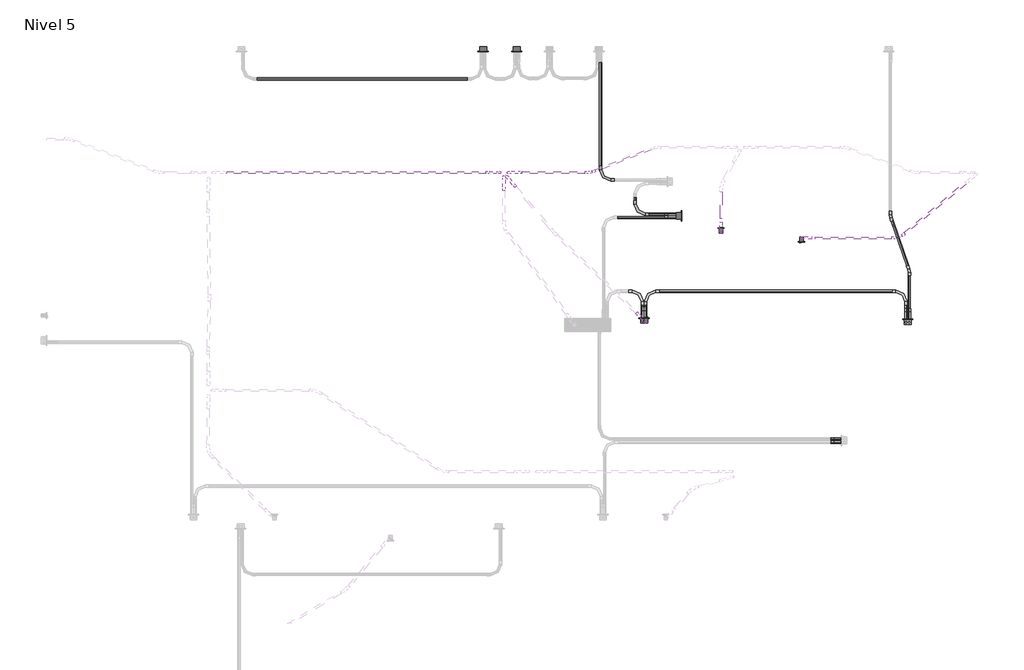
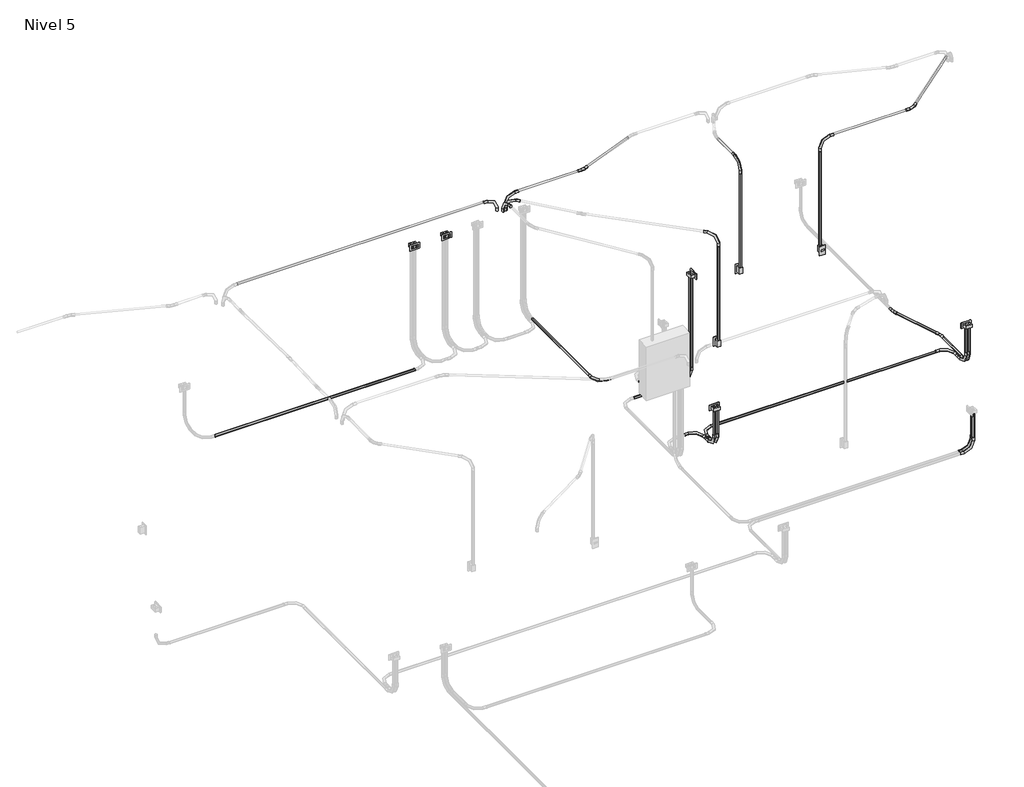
# One storey, part 8 of 9: 28 cable carrier segments, 24 cable carrier fittings, 5 proxies, 3 switching devices.
"""IFC4 building model written with IfcOpenShell, lengths in millimetres."""

from ifc_helpers import new_model, si_unit, point, frame, frame_2d, origin, place, context, project, spatial, circle_curve, trimmed, segment, composite_curve, outline, extrude, transform, mapped, element, save
from components import gfci_180f1b41, m_codo_de_tubo_extremo_liso_pvc_9da73e12, m_codo_de_tubo_extremo_liso_pvc_20e47560, m_codo_de_tubo_extremo_liso_pvc_102f0f41, m_codo_de_tubo_extremo_liso_pvc_da9ca040, m_codo_de_tubo_extremo_liso_pvc_18a5b87b, switching_device_22fed34b

model = new_model("IFC4")

# Units and contexts
model_context = context("Model", 3, world=origin())
ifc_project = project(units=[si_unit("LENGTHUNIT", "METRE", prefix="MILLI")], contexts=[model_context])

# Site, building, storey
site = spatial("IfcSite", under=ifc_project)
building = spatial("IfcBuilding", under=site)
storey = spatial("IfcBuildingStorey", under=building, Name="Nivel 5", Elevation=10750.0)

# Proxies
placement = place(None, origin())
gfci_shape = gfci_180f1b41(model_context)
element("IfcBuildingElementProxy", 1, Name="Tomacorriente doble 220V : GFCI", ObjectType="Tomacorriente doble 220V : GFCI", at=placement, inside=storey, context=model_context, shape_type="MappedRepresentation", body=[
    mapped(gfci_shape, transform((2332.9602919, 17515.0, 11950.0), x_axis=(0.0, 0.0, 1.0), y_axis=(-1.0, 0.0, 0.0), z_axis=(0.0, -1.0, 0.0))),
])
element("IfcBuildingElementProxy", 2, Name="Tomacorriente doble 220V : GFCI", ObjectType="Tomacorriente doble 220V : GFCI", at=placement, inside=storey, context=model_context, shape_type="MappedRepresentation", body=[
    mapped(gfci_shape, transform((2706.5088262, 17515.0, 11950.0), x_axis=(0.0, 0.0, 1.0), y_axis=(-1.0, 0.0, 0.0), z_axis=(0.0, -1.0, 0.0))),
])
element("IfcBuildingElementProxy", 3, Name="Tomacorriente doble 220V : GFCI", ObjectType="Tomacorriente doble 220V : GFCI", at=placement, inside=storey, context=model_context, shape_type="MappedRepresentation", body=[
    mapped(gfci_shape, transform((4529.9531324, 15688.8147874, 11950.0), x_axis=(0.0, 0.0, 1.0), y_axis=(0.0, -1.0, 0.0), z_axis=(1.0, 0.0, 0.0))),
])
element("IfcBuildingElementProxy", 4, Name="Tomacorriente doble 220V : GFCI", ObjectType="Tomacorriente doble 220V : GFCI", at=placement, inside=storey, context=model_context, shape_type="MappedRepresentation", body=[
    mapped(gfci_shape, transform((7044.8620137, 14535.0, 11150.0), x_axis=(0.0, 0.0, 1.0), y_axis=(1.0, 0.0, 0.0), z_axis=(0.0, 1.0, 0.0))),
])
element("IfcBuildingElementProxy", 5, Name="Tomacorriente doble 220V : GFCI", ObjectType="Tomacorriente doble 220V : GFCI", at=placement, inside=storey, context=model_context, shape_type="MappedRepresentation", body=[
    mapped(gfci_shape, transform((4117.8570499, 14550.3626818, 11150.0), x_axis=(0.0, 0.0, 1.0), y_axis=(1.0, 0.0, 0.0), z_axis=(0.0, 1.0, 0.0))),
])

# Cable carrier fittings
m_codo_de_tubo_extremo_liso_pvc_shape = m_codo_de_tubo_extremo_liso_pvc_9da73e12(model_context)
element("IfcCableCarrierFitting", 6, ObjectType="M_Codo de tubo - Extremo liso - PVC : CODO POTENCIA", at=placement, inside=storey, context=model_context, shape_type="MappedRepresentation", body=[
    mapped(m_codo_de_tubo_extremo_liso_pvc_shape, transform((4099.8252301, 14520.72557, 10680.0), x_axis=(0.0, 0.0, -1.0), y_axis=(0.0, 1.0, 0.0), z_axis=(1.0, 0.0, 0.0))),
])
element("IfcCableCarrierFitting", 7, ObjectType="M_Codo de tubo - Extremo liso - PVC : CODO POTENCIA", at=placement, inside=storey, context=model_context, shape_type="MappedRepresentation", body=[
    mapped(m_codo_de_tubo_extremo_liso_pvc_shape, transform((7026.8301939, 14505.3628882, 10680.0), x_axis=(0.0, 0.0, -1.0), y_axis=(0.0, 1.0, 0.0), z_axis=(1.0, 0.0, 0.0))),
])
element("IfcCableCarrierFitting", 8, ObjectType="M_Codo de tubo - Extremo liso - PVC : CODO POTENCIA", at=placement, inside=storey, context=model_context, shape_type="MappedRepresentation", body=[
    mapped(m_codo_de_tubo_extremo_liso_pvc_shape, transform((7062.8938335, 14505.3628882, 10680.0), x_axis=(0.0, 0.0, -1.0), y_axis=(0.0, 1.0, 0.0), z_axis=(1.0, 0.0, 0.0))),
])
element("IfcCableCarrierFitting", 9, ObjectType="M_Codo de tubo - Extremo liso - PVC : CODO POTENCIA", at=placement, inside=storey, context=model_context, shape_type="MappedRepresentation", body=[
    mapped(m_codo_de_tubo_extremo_liso_pvc_shape, transform((7026.8301939, 14850.3628882, 10680.0), x_axis=(0.0, 1.0, 0.0), y_axis=(-1.0, 0.0, 0.0), z_axis=(0.0, 0.0, 1.0))),
])
element("IfcCableCarrierFitting", 10, ObjectType="M_Codo de tubo - Extremo liso - PVC : CODO POTENCIA", at=placement, inside=storey, context=model_context, shape_type="MappedRepresentation", body=[
    mapped(m_codo_de_tubo_extremo_liso_pvc_shape, transform((4135.8888697, 14850.3628882, 10680.0), x_axis=(-1.0, 0.0, 0.0), y_axis=(0.0, -1.0, 0.0), z_axis=(0.0, 0.0, 1.0))),
])
element("IfcCableCarrierFitting", 11, ObjectType="M_Codo de tubo - Extremo liso - PVC : CODO POTENCIA", at=placement, inside=storey, context=model_context, shape_type="MappedRepresentation", body=[
    mapped(m_codo_de_tubo_extremo_liso_pvc_shape, transform((4135.8888697, 14520.72557, 10680.0), x_axis=(0.0, 0.0, -1.0), y_axis=(0.0, 1.0, 0.0), z_axis=(1.0, 0.0, 0.0))),
])
element("IfcCableCarrierFitting", 12, ObjectType="M_Codo de tubo - Extremo liso - PVC : CODO POTENCIA", at=placement, inside=storey, context=model_context, shape_type="MappedRepresentation", body=[
    mapped(m_codo_de_tubo_extremo_liso_pvc_shape, transform((4500.3160206, 15670.7829676, 10680.0), x_axis=(0.0, 0.0, -1.0), y_axis=(-1.0, 0.0, 0.0), z_axis=(0.0, 1.0, 0.0))),
])
element("IfcCableCarrierFitting", 13, ObjectType="M_Codo de tubo - Extremo liso - PVC : CODO POTENCIA", at=placement, inside=storey, context=model_context, shape_type="MappedRepresentation", body=[
    mapped(m_codo_de_tubo_extremo_liso_pvc_shape, transform((4500.3160206, 15706.8466073, 10680.0), x_axis=(0.0, 0.0, -1.0), y_axis=(-1.0, 0.0, 0.0), z_axis=(0.0, 1.0, 0.0))),
])
element("IfcCableCarrierFitting", 14, ObjectType="M_Codo de tubo - Extremo liso - PVC : CODO POTENCIA", at=placement, inside=storey, context=model_context, shape_type="MappedRepresentation", body=[
    mapped(m_codo_de_tubo_extremo_liso_pvc_shape, transform((4099.8252301, 14850.3628882, 10680.0), x_axis=(0.0, 1.0, 0.0), y_axis=(-1.0, 0.0, 0.0), z_axis=(0.0, 0.0, 1.0))),
])
element("IfcCableCarrierFitting", 15, ObjectType="M_Codo de tubo - Extremo liso - PVC : CODO POTENCIA", at=placement, inside=storey, context=model_context, shape_type="MappedRepresentation", body=[
    mapped(m_codo_de_tubo_extremo_liso_pvc_shape, transform((4020.3160206, 15706.8466073, 10680.0), x_axis=(0.0, -1.0, 0.0), y_axis=(1.0, 0.0, 0.0), z_axis=(0.0, 0.0, 1.0))),
])
element("IfcCableCarrierFitting", 16, ObjectType="M_Codo de tubo - Extremo liso - PVC : CODO POTENCIA", at=placement, inside=storey, context=model_context, shape_type="MappedRepresentation", body=[
    mapped(m_codo_de_tubo_extremo_liso_pvc_shape, transform((3635.6625794, 16086.3537982, 10680.0), x_axis=(0.0, -1.0, 0.0), y_axis=(1.0, 0.0, 0.0), z_axis=(0.0, 0.0, 1.0))),
])
element("IfcCableCarrierFitting", 17, ObjectType="M_Codo de tubo - Extremo liso - PVC : CODO POTENCIA", at=placement, inside=storey, context=model_context, shape_type="MappedRepresentation", body=[
    mapped(m_codo_de_tubo_extremo_liso_pvc_shape, transform((6344.6371118, 13174.3276394, 10680.0), x_axis=(0.0, 0.0, -1.0), y_axis=(-1.0, 0.0, 0.0), z_axis=(0.0, 1.0, 0.0))),
])
element("IfcCableCarrierFitting", 18, ObjectType="M_Codo de tubo - Extremo liso - PVC : CODO POTENCIA", at=placement, inside=storey, context=model_context, shape_type="MappedRepresentation", body=[
    mapped(m_codo_de_tubo_extremo_liso_pvc_shape, transform((6344.6371118, 13210.391279, 10680.0), x_axis=(0.0, 0.0, -1.0), y_axis=(-1.0, 0.0, 0.0), z_axis=(0.0, 1.0, 0.0))),
])
m_codo_de_tubo_extremo_liso_pvc_2_shape = m_codo_de_tubo_extremo_liso_pvc_20e47560(model_context)
element("IfcCableCarrierFitting", 19, ObjectType="M_Codo de tubo - Extremo liso - PVC : CODO POTENCIA", at=placement, inside=storey, context=model_context, shape_type="MappedRepresentation", body=[
    mapped(m_codo_de_tubo_extremo_liso_pvc_2_shape, transform((6853.5056127, 15684.6371118, 10680.0), x_axis=(0.0, -1.0, 0.0), y_axis=(1.0, 0.0, 0.0), z_axis=(0.0, 0.0, 1.0))),
])
element("IfcCableCarrierFitting", 20, ObjectType="M_Codo de tubo - Extremo liso - PVC : CODO POTENCIA", at=placement, inside=storey, context=model_context, shape_type="MappedRepresentation", body=[
    mapped(m_codo_de_tubo_extremo_liso_pvc_2_shape, transform((7062.8938335, 15080.3628882, 10680.0), x_axis=(0.0, 1.0, 0.0), y_axis=(-1.0, 0.0, 0.0), z_axis=(0.0, 0.0, 1.0))),
])
element("IfcCableCarrierFitting", 21, ObjectType="M_Codo de tubo - Extremo liso - PVC : CODO ILUMINACION", at=placement, inside=storey, context=model_context, shape_type="MappedRepresentation", body=[
    mapped(m_codo_de_tubo_extremo_liso_pvc_shape, transform((2609.5479095, 16168.6370953, 13300.0), x_axis=(-1.0, 0.0, 0.0), y_axis=(0.0, 0.0, -1.0), z_axis=(0.0, -1.0, 0.0))),
])
element("IfcCableCarrierFitting", 22, ObjectType="M_Codo de tubo - Extremo liso - PVC : CODO ILUMINACION", at=placement, inside=storey, context=model_context, shape_type="MappedRepresentation", body=[
    mapped(m_codo_de_tubo_extremo_liso_pvc_shape, transform((2562.9717001, 16122.0608858, 13300.0), x_axis=(0.0, 1.0, 0.0), y_axis=(0.0, 0.0, -1.0), z_axis=(-1.0, 0.0, 0.0))),
])
element("IfcCableCarrierFitting", 23, ObjectType="M_Codo de tubo - Extremo liso - PVC : CODO ILUMINACION", at=placement, inside=storey, context=model_context, shape_type="MappedRepresentation", body=[
    mapped(m_codo_de_tubo_extremo_liso_pvc_shape, transform((2595.274299, 16126.1832603, 13300.0), x_axis=(-0.6427876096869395, 0.7660444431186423, 0.0), y_axis=(0.0, 0.0, -1.0), z_axis=(-0.7660444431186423, -0.6427876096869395, 0.0))),
])
element("IfcCableCarrierFitting", 24, ObjectType="M_Codo de tubo - Extremo liso - PVC : CODO ILUMINACION", at=placement, inside=storey, context=model_context, shape_type="MappedRepresentation", body=[
    mapped(m_codo_de_tubo_extremo_liso_pvc_shape, transform((4142.0280639, 14507.2238061, 13300.0), x_axis=(0.0, 0.0, 1.0), y_axis=(-0.7168149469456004, 0.697263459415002, 0.0), z_axis=(-0.697263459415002, -0.7168149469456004, 0.0))),
])
element("IfcCableCarrierFitting", 25, ObjectType="M_Codo de tubo - Extremo liso - PVC : CODO ILUMINACION", at=placement, inside=storey, context=model_context, shape_type="MappedRepresentation", body=[
    mapped(m_codo_de_tubo_extremo_liso_pvc_shape, transform((4973.7041598, 15506.8611243, 13300.0), x_axis=(0.0, 0.0, 1.0), y_axis=(0.0, 1.0, 0.0), z_axis=(-1.0, 0.0, 0.0))),
])
element("IfcCableCarrierFitting", 26, ObjectType="M_Codo de tubo - Extremo liso - PVC : CODO ILUMINACION", at=placement, inside=storey, context=model_context, shape_type="MappedRepresentation", body=[
    mapped(m_codo_de_tubo_extremo_liso_pvc_shape, transform((5866.1136082, 15443.1388757, 13300.0), x_axis=(0.0, 0.0, 1.0), y_axis=(1.0, 0.0, 0.0), z_axis=(0.0, 1.0, 0.0))),
])
m_codo_de_tubo_extremo_liso_pvc_3_shape = m_codo_de_tubo_extremo_liso_pvc_102f0f41(model_context)
element("IfcCableCarrierFitting", 27, ObjectType="M_Codo de tubo - Extremo liso - PVC : CODO ILUMINACION", at=placement, inside=storey, context=model_context, shape_type="MappedRepresentation", body=[
    mapped(m_codo_de_tubo_extremo_liso_pvc_3_shape, transform((2516.3954906, 16168.6370953, 13300.0), x_axis=(1.0, 0.0, 0.0), y_axis=(0.0, 0.0, 1.0), z_axis=(0.0, -1.0, 0.0))),
])
m_codo_de_tubo_extremo_liso_pvc_4_shape = m_codo_de_tubo_extremo_liso_pvc_da9ca040(model_context)
element("IfcCableCarrierFitting", 28, ObjectType="M_Codo de tubo - Extremo liso - PVC : CODO ILUMINACION", at=placement, inside=storey, context=model_context, shape_type="MappedRepresentation", body=[
    mapped(m_codo_de_tubo_extremo_liso_pvc_4_shape, transform((3521.9479095, 16168.6370953, 13300.0), x_axis=(1.0, 0.0, 0.0), y_axis=(0.0, 1.0, 0.0), z_axis=(0.0, 0.0, 1.0))),
])
m_codo_de_tubo_extremo_liso_pvc_5_shape = m_codo_de_tubo_extremo_liso_pvc_18a5b87b(model_context)
element("IfcCableCarrierFitting", 29, ObjectType="M_Codo de tubo - Extremo liso - PVC : CODO ILUMINACION", at=placement, inside=storey, context=model_context, shape_type="MappedRepresentation", body=[
    mapped(m_codo_de_tubo_extremo_liso_pvc_5_shape, transform((6949.857503, 15443.1388757, 13300.0), x_axis=(1.0, 0.0, 0.0), y_axis=(0.0, 1.0, 0.0), z_axis=(0.0, 0.0, 1.0))),
])

# Cable carrier segments
element("IfcCableCarrierSegment", 30, ObjectType="PVC-SEL, POTENCIA", at=placement, inside=storey, context=model_context, shape_type="SweptSolid", body=[
    extrude(outline(composite_curve([segment(trimmed(circle_curve(frame_2d((10680.0, 3635.6625794)), 11.71), [point((10680.0, 3623.9525794))], [point((10668.29, 3635.6625794))], False, "CARTESIAN"), True, "CONTINUOUS"), segment(trimmed(circle_curve(frame_2d((10680.0, 3635.6625794)), 11.71), [point((10668.29, 3635.6625794))], [point((10680.0, 3647.3725794))], False, "CARTESIAN"), True, "CONTINUOUS"), segment(trimmed(circle_curve(frame_2d((10680.0, 3635.6625794)), 11.71), [point((10680.0, 3647.3725794))], [point((10691.71, 3635.6625794))], False, "CARTESIAN"), True, "CONTINUOUS"), segment(trimmed(circle_curve(frame_2d((10680.0, 3635.6625794)), 11.71), [point((10691.71, 3635.6625794))], [point((10680.0, 3623.9525794))], False, "CARTESIAN"), True, "CONTINUOUS")], self_intersect=False)), frame((0.0, 16238.7537982, 0.0), z_axis=(0.0, 1.0, 0.0), x_axis=(0.0, 0.0, 1.0)), (0.0, 0.0, 1.0), 1153.4833136),
])
element("IfcCableCarrierSegment", 31, ObjectType="PVC-SEL, POTENCIA", at=placement, inside=storey, context=model_context, shape_type="SweptSolid", body=[
    extrude(outline(composite_curve([segment(trimmed(circle_curve(frame_2d((10680.0, 4135.8888697)), 11.71), [point((10680.0, 4124.1788697))], [point((10668.29, 4135.8888697))], False, "CARTESIAN"), True, "CONTINUOUS"), segment(trimmed(circle_curve(frame_2d((10680.0, 4135.8888697)), 11.71), [point((10668.29, 4135.8888697))], [point((10680.0, 4147.5988697))], False, "CARTESIAN"), True, "CONTINUOUS"), segment(trimmed(circle_curve(frame_2d((10680.0, 4135.8888697)), 11.71), [point((10680.0, 4147.5988697))], [point((10691.71, 4135.8888697))], False, "CARTESIAN"), True, "CONTINUOUS"), segment(trimmed(circle_curve(frame_2d((10680.0, 4135.8888697)), 11.71), [point((10691.71, 4135.8888697))], [point((10680.0, 4124.1788697))], False, "CARTESIAN"), True, "CONTINUOUS")], self_intersect=False)), frame((0.0, 14673.12557, 0.0), z_axis=(0.0, 1.0, 0.0), x_axis=(0.0, 0.0, 1.0)), (0.0, 0.0, 1.0), 24.8373182),
])
element("IfcCableCarrierSegment", 32, ObjectType="PVC-SEL, POTENCIA", at=placement, inside=storey, context=model_context, shape_type="SweptSolid", body=[
    extrude(outline(composite_curve([segment(trimmed(circle_curve(frame_2d((4135.8888697, 14520.72557)), 11.71), [point((4147.5988697, 14520.72557))], [point((4135.8888697, 14509.01557))], False, "CARTESIAN"), True, "CONTINUOUS"), segment(trimmed(circle_curve(frame_2d((4135.8888697, 14520.72557)), 11.71), [point((4135.8888697, 14509.01557))], [point((4124.1788697, 14520.72557))], False, "CARTESIAN"), True, "CONTINUOUS"), segment(trimmed(circle_curve(frame_2d((4135.8888697, 14520.72557)), 11.71), [point((4124.1788697, 14520.72557))], [point((4135.8888697, 14532.43557))], False, "CARTESIAN"), True, "CONTINUOUS"), segment(trimmed(circle_curve(frame_2d((4135.8888697, 14520.72557)), 11.71), [point((4135.8888697, 14532.43557))], [point((4147.5988697, 14520.72557))], False, "CARTESIAN"), True, "CONTINUOUS")], self_intersect=False)), frame((0.0, 0.0, 10832.4), z_axis=(0.0, 0.0, 1.0), x_axis=(1.0, 0.0, 0.0)), (0.0, 0.0, 1.0), 297.3020537),
])
element("IfcCableCarrierSegment", 33, ObjectType="PVC-SEL, POTENCIA", at=placement, inside=storey, context=model_context, shape_type="SweptSolid", body=[
    extrude(outline(composite_curve([segment(trimmed(circle_curve(frame_2d((10680.0, 4099.8252301)), 11.71), [point((10680.0, 4111.5352301))], [point((10691.71, 4099.8252301))], False, "CARTESIAN"), True, "CONTINUOUS"), segment(trimmed(circle_curve(frame_2d((10680.0, 4099.8252301)), 11.71), [point((10691.71, 4099.8252301))], [point((10680.0, 4088.1152301))], False, "CARTESIAN"), True, "CONTINUOUS"), segment(trimmed(circle_curve(frame_2d((10680.0, 4099.8252301)), 11.71), [point((10680.0, 4088.1152301))], [point((10668.29, 4099.8252301))], False, "CARTESIAN"), True, "CONTINUOUS"), segment(trimmed(circle_curve(frame_2d((10680.0, 4099.8252301)), 11.71), [point((10668.29, 4099.8252301))], [point((10680.0, 4111.5352301))], False, "CARTESIAN"), True, "CONTINUOUS")], self_intersect=False)), frame((0.0, 14673.12557, 0.0), z_axis=(0.0, 1.0, 0.0), x_axis=(0.0, 0.0, 1.0)), (0.0, 0.0, 1.0), 24.8373182),
])
element("IfcCableCarrierSegment", 34, ObjectType="PVC-SEL, POTENCIA", at=placement, inside=storey, context=model_context, shape_type="SweptSolid", body=[
    extrude(outline(composite_curve([segment(trimmed(circle_curve(frame_2d((4099.8252301, 14520.72557)), 11.71), [point((4111.5352301, 14520.72557))], [point((4099.8252301, 14509.01557))], False, "CARTESIAN"), True, "CONTINUOUS"), segment(trimmed(circle_curve(frame_2d((4099.8252301, 14520.72557)), 11.71), [point((4099.8252301, 14509.01557))], [point((4088.1152301, 14520.72557))], False, "CARTESIAN"), True, "CONTINUOUS"), segment(trimmed(circle_curve(frame_2d((4099.8252301, 14520.72557)), 11.71), [point((4088.1152301, 14520.72557))], [point((4099.8252301, 14532.43557))], False, "CARTESIAN"), True, "CONTINUOUS"), segment(trimmed(circle_curve(frame_2d((4099.8252301, 14520.72557)), 11.71), [point((4099.8252301, 14532.43557))], [point((4111.5352301, 14520.72557))], False, "CARTESIAN"), True, "CONTINUOUS")], self_intersect=False)), frame((0.0, 0.0, 10832.4), z_axis=(0.0, 0.0, 1.0), x_axis=(1.0, 0.0, 0.0)), (0.0, 0.0, 1.0), 297.3020537),
])
element("IfcCableCarrierSegment", 35, ObjectType="PVC-SEL, POTENCIA", at=placement, inside=storey, context=model_context, shape_type="SweptSolid", body=[
    extrude(outline(composite_curve([segment(trimmed(circle_curve(frame_2d((10680.0, 7026.8301939)), 11.71), [point((10680.0, 7038.5401939))], [point((10691.71, 7026.8301939))], False, "CARTESIAN"), True, "CONTINUOUS"), segment(trimmed(circle_curve(frame_2d((10680.0, 7026.8301939)), 11.71), [point((10691.71, 7026.8301939))], [point((10680.0, 7015.1201939))], False, "CARTESIAN"), True, "CONTINUOUS"), segment(trimmed(circle_curve(frame_2d((10680.0, 7026.8301939)), 11.71), [point((10680.0, 7015.1201939))], [point((10668.29, 7026.8301939))], False, "CARTESIAN"), True, "CONTINUOUS"), segment(trimmed(circle_curve(frame_2d((10680.0, 7026.8301939)), 11.71), [point((10668.29, 7026.8301939))], [point((10680.0, 7038.5401939))], False, "CARTESIAN"), True, "CONTINUOUS")], self_intersect=False)), frame((0.0, 14657.7628882, 0.0), z_axis=(0.0, 1.0, 0.0), x_axis=(0.0, 0.0, 1.0)), (0.0, 0.0, 1.0), 40.2),
])
element("IfcCableCarrierSegment", 36, ObjectType="PVC-SEL, POTENCIA", at=placement, inside=storey, context=model_context, shape_type="SweptSolid", body=[
    extrude(outline(composite_curve([segment(trimmed(circle_curve(frame_2d((7026.8301939, 14505.3628882)), 11.71), [point((7038.5401939, 14505.3628882))], [point((7026.8301939, 14493.6528882))], False, "CARTESIAN"), True, "CONTINUOUS"), segment(trimmed(circle_curve(frame_2d((7026.8301939, 14505.3628882)), 11.71), [point((7026.8301939, 14493.6528882))], [point((7015.1201939, 14505.3628882))], False, "CARTESIAN"), True, "CONTINUOUS"), segment(trimmed(circle_curve(frame_2d((7026.8301939, 14505.3628882)), 11.71), [point((7015.1201939, 14505.3628882))], [point((7026.8301939, 14517.0728882))], False, "CARTESIAN"), True, "CONTINUOUS"), segment(trimmed(circle_curve(frame_2d((7026.8301939, 14505.3628882)), 11.71), [point((7026.8301939, 14517.0728882))], [point((7038.5401939, 14505.3628882))], False, "CARTESIAN"), True, "CONTINUOUS")], self_intersect=False)), frame((0.0, 0.0, 10832.4), z_axis=(0.0, 0.0, 1.0), x_axis=(1.0, 0.0, 0.0)), (0.0, 0.0, 1.0), 297.3020537),
])
element("IfcCableCarrierSegment", 37, ObjectType="PVC-SEL, POTENCIA", at=placement, inside=storey, context=model_context, shape_type="SweptSolid", body=[
    extrude(outline(composite_curve([segment(trimmed(circle_curve(frame_2d((10680.0, 7062.8938335)), 11.71), [point((10680.0, 7074.6038335))], [point((10691.71, 7062.8938335))], False, "CARTESIAN"), True, "CONTINUOUS"), segment(trimmed(circle_curve(frame_2d((10680.0, 7062.8938335)), 11.71), [point((10691.71, 7062.8938335))], [point((10680.0, 7051.1838335))], False, "CARTESIAN"), True, "CONTINUOUS"), segment(trimmed(circle_curve(frame_2d((10680.0, 7062.8938335)), 11.71), [point((10680.0, 7051.1838335))], [point((10668.29, 7062.8938335))], False, "CARTESIAN"), True, "CONTINUOUS"), segment(trimmed(circle_curve(frame_2d((10680.0, 7062.8938335)), 11.71), [point((10668.29, 7062.8938335))], [point((10680.0, 7074.6038335))], False, "CARTESIAN"), True, "CONTINUOUS")], self_intersect=False)), frame((0.0, 14657.7628882, 0.0), z_axis=(0.0, 1.0, 0.0), x_axis=(0.0, 0.0, 1.0)), (0.0, 0.0, 1.0), 365.2580716),
])
element("IfcCableCarrierSegment", 38, ObjectType="PVC-SEL, POTENCIA", at=placement, inside=storey, context=model_context, shape_type="SweptSolid", body=[
    extrude(outline(composite_curve([segment(trimmed(circle_curve(frame_2d((7062.8938335, 14505.3628882)), 11.71), [point((7074.6038335, 14505.3628882))], [point((7062.8938335, 14493.6528882))], False, "CARTESIAN"), True, "CONTINUOUS"), segment(trimmed(circle_curve(frame_2d((7062.8938335, 14505.3628882)), 11.71), [point((7062.8938335, 14493.6528882))], [point((7051.1838335, 14505.3628882))], False, "CARTESIAN"), True, "CONTINUOUS"), segment(trimmed(circle_curve(frame_2d((7062.8938335, 14505.3628882)), 11.71), [point((7051.1838335, 14505.3628882))], [point((7062.8938335, 14517.0728882))], False, "CARTESIAN"), True, "CONTINUOUS"), segment(trimmed(circle_curve(frame_2d((7062.8938335, 14505.3628882)), 11.71), [point((7062.8938335, 14517.0728882))], [point((7074.6038335, 14505.3628882))], False, "CARTESIAN"), True, "CONTINUOUS")], self_intersect=False)), frame((0.0, 0.0, 10832.4), z_axis=(0.0, 0.0, 1.0), x_axis=(1.0, 0.0, 0.0)), (0.0, 0.0, 1.0), 297.3020537),
])
element("IfcCableCarrierSegment", 39, ObjectType="PVC-SEL, POTENCIA", at=placement, inside=storey, context=model_context, shape_type="SweptSolid", body=[
    extrude(outline(composite_curve([segment(trimmed(circle_curve(frame_2d((0.0, -11.71)), 11.71), [point((-11.71, -11.71))], [point((0.0, 0.0))], False, "CARTESIAN"), True, "CONTINUOUS"), segment(trimmed(circle_curve(frame_2d((0.0, -11.71)), 11.71), [point((0.0, 0.0))], [point((11.71, -11.71))], False, "CARTESIAN"), True, "CONTINUOUS"), segment(trimmed(circle_curve(frame_2d((0.0, -11.71)), 11.71), [point((11.71, -11.71))], [point((0.0, -23.42))], False, "CARTESIAN"), True, "CONTINUOUS"), segment(trimmed(circle_curve(frame_2d((0.0, -11.71)), 11.71), [point((0.0, -23.42))], [point((-11.71, -11.71))], False, "CARTESIAN"), True, "CONTINUOUS")], self_intersect=False)), frame((7044.119359, 15134.5442121, 10668.29), z_axis=(-0.32741268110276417, 0.9448814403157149, 0.0), x_axis=(0.9448814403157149, 0.32741268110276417, 0.0)), (0.0, 0.0, 1.0), 524.8400006),
])
element("IfcCableCarrierSegment", 40, ObjectType="PVC-SEL, POTENCIA", at=placement, inside=storey, context=model_context, shape_type="SweptSolid", body=[
    extrude(outline(composite_curve([segment(trimmed(circle_curve(frame_2d((14850.3628882, 10680.0)), 11.71), [point((14862.0728882, 10680.0))], [point((14850.3628882, 10668.29))], False, "CARTESIAN"), True, "CONTINUOUS"), segment(trimmed(circle_curve(frame_2d((14850.3628882, 10680.0)), 11.71), [point((14850.3628882, 10668.29))], [point((14838.6528882, 10680.0))], False, "CARTESIAN"), True, "CONTINUOUS"), segment(trimmed(circle_curve(frame_2d((14850.3628882, 10680.0)), 11.71), [point((14838.6528882, 10680.0))], [point((14850.3628882, 10691.71))], False, "CARTESIAN"), True, "CONTINUOUS"), segment(trimmed(circle_curve(frame_2d((14850.3628882, 10680.0)), 11.71), [point((14850.3628882, 10691.71))], [point((14862.0728882, 10680.0))], False, "CARTESIAN"), True, "CONTINUOUS")], self_intersect=False)), frame((4288.2888697, 0.0, 0.0), z_axis=(1.0, 0.0, 0.0), x_axis=(0.0, 1.0, 0.0)), (0.0, 0.0, 1.0), 2586.1413242),
])
element("IfcCableCarrierSegment", 41, ObjectType="PVC-SEL, POTENCIA", at=placement, inside=storey, context=model_context, shape_type="SweptSolid", body=[
    extrude(outline(composite_curve([segment(trimmed(circle_curve(frame_2d((15670.7829676, 10680.0)), 11.71), [point((15682.4929676, 10680.0))], [point((15670.7829676, 10668.29))], False, "CARTESIAN"), True, "CONTINUOUS"), segment(trimmed(circle_curve(frame_2d((15670.7829676, 10680.0)), 11.71), [point((15670.7829676, 10668.29))], [point((15659.0729676, 10680.0))], False, "CARTESIAN"), True, "CONTINUOUS"), segment(trimmed(circle_curve(frame_2d((15670.7829676, 10680.0)), 11.71), [point((15659.0729676, 10680.0))], [point((15670.7829676, 10691.71))], False, "CARTESIAN"), True, "CONTINUOUS"), segment(trimmed(circle_curve(frame_2d((15670.7829676, 10680.0)), 11.71), [point((15670.7829676, 10691.71))], [point((15682.4929676, 10680.0))], False, "CARTESIAN"), True, "CONTINUOUS")], self_intersect=False)), frame((3822.2252301, 0.0, 0.0), z_axis=(1.0, 0.0, 0.0), x_axis=(0.0, 1.0, 0.0)), (0.0, 0.0, 1.0), 525.6907906),
])
element("IfcCableCarrierSegment", 42, ObjectType="PVC-SEL, POTENCIA", at=placement, inside=storey, context=model_context, shape_type="SweptSolid", body=[
    extrude(outline(composite_curve([segment(trimmed(circle_curve(frame_2d((4500.3160206, 15670.7829676)), 11.71), [point((4512.0260206, 15670.7829676))], [point((4500.3160206, 15659.0729676))], False, "CARTESIAN"), True, "CONTINUOUS"), segment(trimmed(circle_curve(frame_2d((4500.3160206, 15670.7829676)), 11.71), [point((4500.3160206, 15659.0729676))], [point((4488.6060206, 15670.7829676))], False, "CARTESIAN"), True, "CONTINUOUS"), segment(trimmed(circle_curve(frame_2d((4500.3160206, 15670.7829676)), 11.71), [point((4488.6060206, 15670.7829676))], [point((4500.3160206, 15682.4929676))], False, "CARTESIAN"), True, "CONTINUOUS"), segment(trimmed(circle_curve(frame_2d((4500.3160206, 15670.7829676)), 11.71), [point((4500.3160206, 15682.4929676))], [point((4512.0260206, 15670.7829676))], False, "CARTESIAN"), True, "CONTINUOUS")], self_intersect=False)), frame((0.0, 0.0, 10832.4), z_axis=(0.0, 0.0, 1.0), x_axis=(1.0, 0.0, 0.0)), (0.0, 0.0, 1.0), 1097.3020537),
])
element("IfcCableCarrierSegment", 43, ObjectType="PVC-SEL, POTENCIA", at=placement, inside=storey, context=model_context, shape_type="SweptSolid", body=[
    extrude(outline(composite_curve([segment(trimmed(circle_curve(frame_2d((15706.8466073, 10680.0)), 11.71), [point((15718.5566073, 10680.0))], [point((15706.8466073, 10668.29))], False, "CARTESIAN"), True, "CONTINUOUS"), segment(trimmed(circle_curve(frame_2d((15706.8466073, 10680.0)), 11.71), [point((15706.8466073, 10668.29))], [point((15695.1366073, 10680.0))], False, "CARTESIAN"), True, "CONTINUOUS"), segment(trimmed(circle_curve(frame_2d((15706.8466073, 10680.0)), 11.71), [point((15695.1366073, 10680.0))], [point((15706.8466073, 10691.71))], False, "CARTESIAN"), True, "CONTINUOUS"), segment(trimmed(circle_curve(frame_2d((15706.8466073, 10680.0)), 11.71), [point((15706.8466073, 10691.71))], [point((15718.5566073, 10680.0))], False, "CARTESIAN"), True, "CONTINUOUS")], self_intersect=False)), frame((4172.7160206, 0.0, 0.0), z_axis=(1.0, 0.0, 0.0), x_axis=(0.0, 1.0, 0.0)), (0.0, 0.0, 1.0), 175.2),
])
element("IfcCableCarrierSegment", 44, ObjectType="PVC-SEL, POTENCIA", at=placement, inside=storey, context=model_context, shape_type="SweptSolid", body=[
    extrude(outline(composite_curve([segment(trimmed(circle_curve(frame_2d((4500.3160206, 15706.8466073)), 11.71), [point((4512.0260206, 15706.8466073))], [point((4500.3160206, 15695.1366073))], False, "CARTESIAN"), True, "CONTINUOUS"), segment(trimmed(circle_curve(frame_2d((4500.3160206, 15706.8466073)), 11.71), [point((4500.3160206, 15695.1366073))], [point((4488.6060206, 15706.8466073))], False, "CARTESIAN"), True, "CONTINUOUS"), segment(trimmed(circle_curve(frame_2d((4500.3160206, 15706.8466073)), 11.71), [point((4488.6060206, 15706.8466073))], [point((4500.3160206, 15718.5566073))], False, "CARTESIAN"), True, "CONTINUOUS"), segment(trimmed(circle_curve(frame_2d((4500.3160206, 15706.8466073)), 11.71), [point((4500.3160206, 15718.5566073))], [point((4512.0260206, 15706.8466073))], False, "CARTESIAN"), True, "CONTINUOUS")], self_intersect=False)), frame((0.0, 0.0, 10832.4), z_axis=(0.0, 0.0, 1.0), x_axis=(1.0, 0.0, 0.0)), (0.0, 0.0, 1.0), 1097.3020537),
])
element("IfcCableCarrierSegment", 45, ObjectType="PVC-SEL, POTENCIA", at=placement, inside=storey, context=model_context, shape_type="SweptSolid", body=[
    extrude(outline(composite_curve([segment(trimmed(circle_curve(frame_2d((10680.0, 4020.3160206)), 11.71), [point((10680.0, 4008.6060206))], [point((10668.29, 4020.3160206))], False, "CARTESIAN"), True, "CONTINUOUS"), segment(trimmed(circle_curve(frame_2d((10680.0, 4020.3160206)), 11.71), [point((10668.29, 4020.3160206))], [point((10680.0, 4032.0260206))], False, "CARTESIAN"), True, "CONTINUOUS"), segment(trimmed(circle_curve(frame_2d((10680.0, 4020.3160206)), 11.71), [point((10680.0, 4032.0260206))], [point((10691.71, 4020.3160206))], False, "CARTESIAN"), True, "CONTINUOUS"), segment(trimmed(circle_curve(frame_2d((10680.0, 4020.3160206)), 11.71), [point((10691.71, 4020.3160206))], [point((10680.0, 4008.6060206))], False, "CARTESIAN"), True, "CONTINUOUS")], self_intersect=False)), frame((0.0, 15859.2466073, 0.0), z_axis=(0.0, 1.0, 0.0), x_axis=(0.0, 0.0, 1.0)), (0.0, 0.0, 1.0), 38.6435513),
])
element("IfcCableCarrierSegment", 46, ObjectType="PVC-SEL, POTENCIA", at=placement, inside=storey, context=model_context, shape_type="SweptSolid", body=[
    extrude(outline(composite_curve([segment(trimmed(circle_curve(frame_2d((17208.8420057, 10680.0)), 11.71), [point((17197.1320057, 10680.0))], [point((17208.8420057, 10691.71))], False, "CARTESIAN"), True, "CONTINUOUS"), segment(trimmed(circle_curve(frame_2d((17208.8420057, 10680.0)), 11.71), [point((17208.8420057, 10691.71))], [point((17220.5520057, 10680.0))], False, "CARTESIAN"), True, "CONTINUOUS"), segment(trimmed(circle_curve(frame_2d((17208.8420057, 10680.0)), 11.71), [point((17220.5520057, 10680.0))], [point((17208.8420057, 10668.29))], False, "CARTESIAN"), True, "CONTINUOUS"), segment(trimmed(circle_curve(frame_2d((17208.8420057, 10680.0)), 11.71), [point((17208.8420057, 10668.29))], [point((17197.1320057, 10680.0))], False, "CARTESIAN"), True, "CONTINUOUS")], self_intersect=False)), frame((-178.2527934, 0.0, 0.0), z_axis=(1.0, 0.0, 0.0), x_axis=(0.0, 1.0, 0.0)), (0.0, 0.0, 1.0), 2340.7812655),
])
element("IfcCableCarrierSegment", 47, ObjectType="PVC-SEL, POTENCIA", at=placement, inside=storey, context=model_context, shape_type="SweptSolid", body=[
    extrude(outline(composite_curve([segment(trimmed(circle_curve(frame_2d((6344.6371118, 13210.391279)), 11.71), [point((6356.3471118, 13210.391279))], [point((6344.6371118, 13198.681279))], False, "CARTESIAN"), True, "CONTINUOUS"), segment(trimmed(circle_curve(frame_2d((6344.6371118, 13210.391279)), 11.71), [point((6344.6371118, 13198.681279))], [point((6332.9271118, 13210.391279))], False, "CARTESIAN"), True, "CONTINUOUS"), segment(trimmed(circle_curve(frame_2d((6344.6371118, 13210.391279)), 11.71), [point((6332.9271118, 13210.391279))], [point((6344.6371118, 13222.101279))], False, "CARTESIAN"), True, "CONTINUOUS"), segment(trimmed(circle_curve(frame_2d((6344.6371118, 13210.391279)), 11.71), [point((6344.6371118, 13222.101279))], [point((6356.3471118, 13210.391279))], False, "CARTESIAN"), True, "CONTINUOUS")], self_intersect=False)), frame((0.0, 0.0, 10832.4), z_axis=(0.0, 0.0, 1.0), x_axis=(1.0, 0.0, 0.0)), (0.0, 0.0, 1.0), 297.3020537),
])
element("IfcCableCarrierSegment", 48, ObjectType="PVC-SEL, POTENCIA", at=placement, inside=storey, context=model_context, shape_type="SweptSolid", body=[
    extrude(outline(composite_curve([segment(trimmed(circle_curve(frame_2d((6344.6371118, 13174.3276394)), 11.71), [point((6356.3471118, 13174.3276394))], [point((6344.6371118, 13162.6176394))], False, "CARTESIAN"), True, "CONTINUOUS"), segment(trimmed(circle_curve(frame_2d((6344.6371118, 13174.3276394)), 11.71), [point((6344.6371118, 13162.6176394))], [point((6332.9271118, 13174.3276394))], False, "CARTESIAN"), True, "CONTINUOUS"), segment(trimmed(circle_curve(frame_2d((6344.6371118, 13174.3276394)), 11.71), [point((6332.9271118, 13174.3276394))], [point((6344.6371118, 13186.0376394))], False, "CARTESIAN"), True, "CONTINUOUS"), segment(trimmed(circle_curve(frame_2d((6344.6371118, 13174.3276394)), 11.71), [point((6344.6371118, 13186.0376394))], [point((6356.3471118, 13174.3276394))], False, "CARTESIAN"), True, "CONTINUOUS")], self_intersect=False)), frame((0.0, 0.0, 10832.4), z_axis=(0.0, 0.0, 1.0), x_axis=(1.0, 0.0, 0.0)), (0.0, 0.0, 1.0), 297.3020537),
])
element("IfcCableCarrierSegment", 49, ObjectType="PVC-SEL ILUMINACION", at=placement, inside=storey, context=model_context, shape_type="SweptSolid", body=[
    extrude(outline(composite_curve([segment(trimmed(circle_curve(frame_2d((16168.6370953, 13300.0)), 11.71), [point((16156.9270953, 13300.0))], [point((16168.6370953, 13311.71))], False, "CARTESIAN"), True, "CONTINUOUS"), segment(trimmed(circle_curve(frame_2d((16168.6370953, 13300.0)), 11.71), [point((16168.6370953, 13311.71))], [point((16180.3470953, 13300.0))], False, "CARTESIAN"), True, "CONTINUOUS"), segment(trimmed(circle_curve(frame_2d((16168.6370953, 13300.0)), 11.71), [point((16180.3470953, 13300.0))], [point((16168.6370953, 13288.29))], False, "CARTESIAN"), True, "CONTINUOUS"), segment(trimmed(circle_curve(frame_2d((16168.6370953, 13300.0)), 11.71), [point((16168.6370953, 13288.29))], [point((16156.9270953, 13300.0))], False, "CARTESIAN"), True, "CONTINUOUS")], self_intersect=False)), frame((-512.9156999, 0.0, 0.0), z_axis=(1.0, 0.0, 0.0), x_axis=(0.0, 1.0, 0.0)), (0.0, 0.0, 1.0), 2876.9111905),
])
element("IfcCableCarrierSegment", 50, ObjectType="PVC-SEL ILUMINACION", at=placement, inside=storey, context=model_context, shape_type="SweptSolid", body=[
    extrude(outline(composite_curve([segment(trimmed(circle_curve(frame_2d((16168.6370953, 13300.0)), 11.71), [point((16156.9270953, 13300.0))], [point((16168.6370953, 13311.71))], False, "CARTESIAN"), True, "CONTINUOUS"), segment(trimmed(circle_curve(frame_2d((16168.6370953, 13300.0)), 11.71), [point((16168.6370953, 13311.71))], [point((16180.3470953, 13300.0))], False, "CARTESIAN"), True, "CONTINUOUS"), segment(trimmed(circle_curve(frame_2d((16168.6370953, 13300.0)), 11.71), [point((16180.3470953, 13300.0))], [point((16168.6370953, 13288.29))], False, "CARTESIAN"), True, "CONTINUOUS"), segment(trimmed(circle_curve(frame_2d((16168.6370953, 13300.0)), 11.71), [point((16168.6370953, 13288.29))], [point((16156.9270953, 13300.0))], False, "CARTESIAN"), True, "CONTINUOUS")], self_intersect=False)), frame((2761.9479095, 0.0, 0.0), z_axis=(1.0, 0.0, 0.0), x_axis=(0.0, 1.0, 0.0)), (0.0, 0.0, 1.0), 700.5830315),
])
element("IfcCableCarrierSegment", 51, ObjectType="PVC-SEL ILUMINACION", at=placement, inside=storey, context=model_context, shape_type="SweptSolid", body=[
    extrude(outline(composite_curve([segment(trimmed(circle_curve(frame_2d((0.0, 11.71)), 11.71), [point((11.71, 11.71))], [point((0.0, 0.0))], False, "CARTESIAN"), True, "CONTINUOUS"), segment(trimmed(circle_curve(frame_2d((0.0, 11.71)), 11.71), [point((0.0, 0.0))], [point((-11.7099999, 11.71))], False, "CARTESIAN"), True, "CONTINUOUS"), segment(trimmed(circle_curve(frame_2d((0.0, 11.71)), 11.71), [point((-11.7099999, 11.71))], [point((0.0, 23.42))], False, "CARTESIAN"), True, "CONTINUOUS"), segment(trimmed(circle_curve(frame_2d((0.0, 11.71)), 11.71), [point((0.0, 23.42))], [point((11.71, 11.71))], False, "CARTESIAN"), True, "CONTINUOUS")], self_intersect=False)), frame((3577.370493, 16190.0546903, 13311.71), z_axis=(0.9327736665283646, 0.36046260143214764, 0.0), x_axis=(0.36046260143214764, -0.9327736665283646, 0.0)), (0.0, 0.0, 1.0), 662.6859668),
])
element("IfcCableCarrierSegment", 52, ObjectType="PVC-SEL ILUMINACION", at=placement, inside=storey, context=model_context, shape_type="SweptSolid", body=[
    extrude(outline(composite_curve([segment(trimmed(circle_curve(frame_2d((4142.0280639, 14507.2238061)), 11.71), [point((4130.3180639, 14507.2238061))], [point((4142.0280639, 14518.9338061))], False, "CARTESIAN"), True, "CONTINUOUS"), segment(trimmed(circle_curve(frame_2d((4142.0280639, 14507.2238061)), 11.71), [point((4142.0280639, 14518.9338061))], [point((4153.7380639, 14507.2238061))], False, "CARTESIAN"), True, "CONTINUOUS"), segment(trimmed(circle_curve(frame_2d((4142.0280639, 14507.2238061)), 11.71), [point((4153.7380639, 14507.2238061))], [point((4142.0280639, 14495.5138061))], False, "CARTESIAN"), True, "CONTINUOUS"), segment(trimmed(circle_curve(frame_2d((4142.0280639, 14507.2238061)), 11.71), [point((4142.0280639, 14495.5138061))], [point((4130.3180639, 14507.2238061))], False, "CARTESIAN"), True, "CONTINUOUS")], self_intersect=False)), frame((0.0, 0.0, 11990.2227463), z_axis=(0.0, 0.0, 1.0), x_axis=(1.0, 0.0, 0.0)), (0.0, 0.0, 1.0), 1157.3772537),
])
element("IfcCableCarrierSegment", 53, ObjectType="PVC-SEL ILUMINACION", at=placement, inside=storey, context=model_context, shape_type="SweptSolid", body=[
    extrude(outline(composite_curve([segment(trimmed(circle_curve(frame_2d((13300.0, 4973.7041598)), 11.71), [point((13300.0, 4961.9941598))], [point((13288.29, 4973.7041598))], False, "CARTESIAN"), True, "CONTINUOUS"), segment(trimmed(circle_curve(frame_2d((13300.0, 4973.7041598)), 11.71), [point((13288.29, 4973.7041598))], [point((13300.0, 4985.4141598))], False, "CARTESIAN"), True, "CONTINUOUS"), segment(trimmed(circle_curve(frame_2d((13300.0, 4973.7041598)), 11.71), [point((13300.0, 4985.4141598))], [point((13311.71, 4973.7041598))], False, "CARTESIAN"), True, "CONTINUOUS"), segment(trimmed(circle_curve(frame_2d((13300.0, 4973.7041598)), 11.71), [point((13311.71, 4973.7041598))], [point((13300.0, 4961.9941598))], False, "CARTESIAN"), True, "CONTINUOUS")], self_intersect=False)), frame((0.0, 15659.2611243, 0.0), z_axis=(0.0, 1.0, 0.0), x_axis=(0.0, 0.0, 1.0)), (0.0, 0.0, 1.0), 297.7085205),
])
element("IfcCableCarrierSegment", 54, ObjectType="PVC-SEL ILUMINACION", at=placement, inside=storey, context=model_context, shape_type="SweptSolid", body=[
    extrude(outline(composite_curve([segment(trimmed(circle_curve(frame_2d((4973.7041598, 15506.8611243)), 11.71), [point((4961.9941598, 15506.8611243))], [point((4973.7041598, 15518.5711243))], False, "CARTESIAN"), True, "CONTINUOUS"), segment(trimmed(circle_curve(frame_2d((4973.7041598, 15506.8611243)), 11.71), [point((4973.7041598, 15518.5711243))], [point((4985.4141598, 15506.8611243))], False, "CARTESIAN"), True, "CONTINUOUS"), segment(trimmed(circle_curve(frame_2d((4973.7041598, 15506.8611243)), 11.71), [point((4985.4141598, 15506.8611243))], [point((4973.7041598, 15495.1511243))], False, "CARTESIAN"), True, "CONTINUOUS"), segment(trimmed(circle_curve(frame_2d((4973.7041598, 15506.8611243)), 11.71), [point((4973.7041598, 15495.1511243))], [point((4961.9941598, 15506.8611243))], False, "CARTESIAN"), True, "CONTINUOUS")], self_intersect=False)), frame((0.0, 0.0, 11990.2227463), z_axis=(0.0, 0.0, 1.0), x_axis=(1.0, 0.0, 0.0)), (0.0, 0.0, 1.0), 1157.3772537),
])
element("IfcCableCarrierSegment", 55, ObjectType="PVC-SEL ILUMINACION", at=placement, inside=storey, context=model_context, shape_type="SweptSolid", body=[
    extrude(outline(composite_curve([segment(trimmed(circle_curve(frame_2d((15443.1388757, 13300.0)), 11.71), [point((15454.8488757, 13300.0))], [point((15443.1388757, 13288.29))], False, "CARTESIAN"), True, "CONTINUOUS"), segment(trimmed(circle_curve(frame_2d((15443.1388757, 13300.0)), 11.71), [point((15443.1388757, 13288.29))], [point((15431.4288757, 13300.0))], False, "CARTESIAN"), True, "CONTINUOUS"), segment(trimmed(circle_curve(frame_2d((15443.1388757, 13300.0)), 11.71), [point((15431.4288757, 13300.0))], [point((15443.1388757, 13311.71))], False, "CARTESIAN"), True, "CONTINUOUS"), segment(trimmed(circle_curve(frame_2d((15443.1388757, 13300.0)), 11.71), [point((15443.1388757, 13311.71))], [point((15454.8488757, 13300.0))], False, "CARTESIAN"), True, "CONTINUOUS")], self_intersect=False)), frame((6018.5136082, 0.0, 0.0), z_axis=(1.0, 0.0, 0.0), x_axis=(0.0, 1.0, 0.0)), (0.0, 0.0, 1.0), 852.2104526),
])
element("IfcCableCarrierSegment", 56, ObjectType="PVC-SEL ILUMINACION", at=placement, inside=storey, context=model_context, shape_type="SweptSolid", body=[
    extrude(outline(composite_curve([segment(trimmed(circle_curve(frame_2d((5866.1136082, 15443.1388757)), 11.71), [point((5854.4036082, 15443.1388757))], [point((5866.1136082, 15454.8488757))], False, "CARTESIAN"), True, "CONTINUOUS"), segment(trimmed(circle_curve(frame_2d((5866.1136082, 15443.1388757)), 11.71), [point((5866.1136082, 15454.8488757))], [point((5877.8236082, 15443.1388757))], False, "CARTESIAN"), True, "CONTINUOUS"), segment(trimmed(circle_curve(frame_2d((5866.1136082, 15443.1388757)), 11.71), [point((5877.8236082, 15443.1388757))], [point((5866.1136082, 15431.4288757))], False, "CARTESIAN"), True, "CONTINUOUS"), segment(trimmed(circle_curve(frame_2d((5866.1136082, 15443.1388757)), 11.71), [point((5866.1136082, 15431.4288757))], [point((5854.4036082, 15443.1388757))], False, "CARTESIAN"), True, "CONTINUOUS")], self_intersect=False)), frame((0.0, 0.0, 11990.2227463), z_axis=(0.0, 0.0, 1.0), x_axis=(1.0, 0.0, 0.0)), (0.0, 0.0, 1.0), 1157.3772537),
])
element("IfcCableCarrierSegment", 57, ObjectType="PVC-SEL ILUMINACION", at=placement, inside=storey, context=model_context, shape_type="SweptSolid", body=[
    extrude(outline(composite_curve([segment(trimmed(circle_curve(frame_2d((0.0, -11.71)), 11.71), [point((-11.7099999, -11.71))], [point((0.0, 0.0))], False, "CARTESIAN"), True, "CONTINUOUS"), segment(trimmed(circle_curve(frame_2d((0.0, -11.71)), 11.71), [point((0.0, 0.0))], [point((11.7100001, -11.71))], False, "CARTESIAN"), True, "CONTINUOUS"), segment(trimmed(circle_curve(frame_2d((0.0, -11.71)), 11.71), [point((11.7100001, -11.71))], [point((0.0, -23.42))], False, "CARTESIAN"), True, "CONTINUOUS"), segment(trimmed(circle_curve(frame_2d((0.0, -11.71)), 11.71), [point((0.0, -23.42))], [point((-11.7099999, -11.71))], False, "CARTESIAN"), True, "CONTINUOUS")], self_intersect=False)), frame((7010.9222849, 15493.4697219, 13288.29), z_axis=(0.7716684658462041, 0.6360249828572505, 0.0), x_axis=(0.6360249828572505, -0.7716684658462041, 0.0)), (0.0, 0.0, 1.0), 878.045809),
])

# Switching devices
switching_device_shape = switching_device_22fed34b(model_context)
element("IfcSwitchingDevice", 58, ObjectType="Interruptor : Tridireccional", at=placement, inside=storey, context=model_context, shape_type="MappedRepresentation", body=[
    mapped(switching_device_shape, transform((4141.9782183, 14550.3626818, 11950.0), x_axis=(-1.0, 0.0, 0.0), y_axis=(0.0, 0.0, 1.0), z_axis=(0.0, 1.0, 0.0))),
])
element("IfcSwitchingDevice", 59, ObjectType="Interruptor : Tridireccional", at=placement, inside=storey, context=model_context, shape_type="MappedRepresentation", body=[
    mapped(switching_device_shape, transform((4973.6543142, 15550.0, 11950.0), x_axis=(-1.0, 0.0, 0.0), y_axis=(0.0, 0.0, 1.0), z_axis=(0.0, 1.0, 0.0))),
])
element("IfcSwitchingDevice", 60, ObjectType="Interruptor : Tridireccional", at=placement, inside=storey, context=model_context, shape_type="MappedRepresentation", body=[
    mapped(switching_device_shape, transform((5866.1634538, 15400.0, 11950.0), x_axis=(1.0, 0.0, 0.0), y_axis=(0.0, 0.0, 1.0), z_axis=(0.0, -1.0, 0.0))),
])

save(model, "model.ifc")
